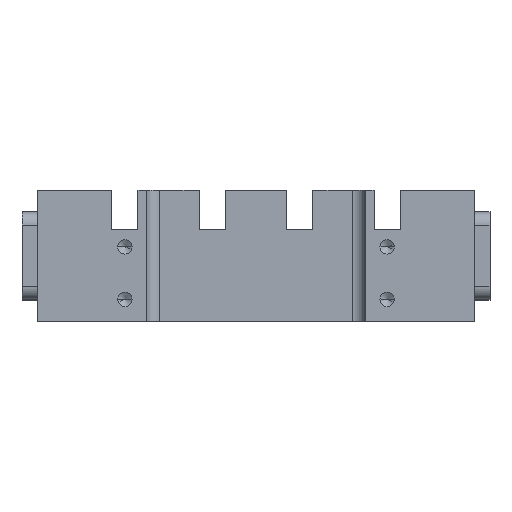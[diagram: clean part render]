
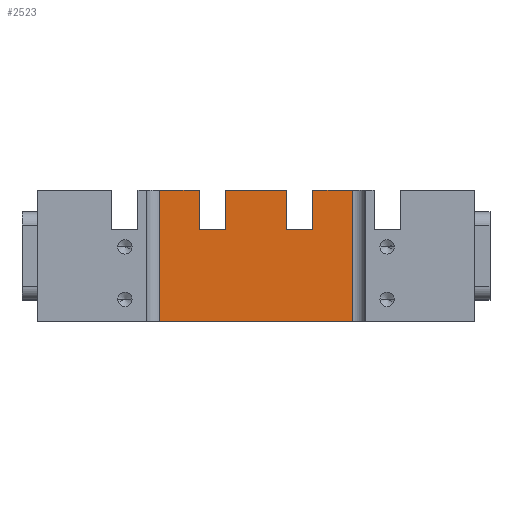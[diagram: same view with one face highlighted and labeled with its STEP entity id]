
A CAD part, top view. The second image highlights one B-rep face of the part: STEP entity #2523.
In plain terms, the highlighted planar face has unit normal (0, 0, 1).
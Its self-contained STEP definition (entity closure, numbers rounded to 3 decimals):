
#12 = DIRECTION ( 'NONE',  ( 0., 1., 0. ) ) ;
#122 = VERTEX_POINT ( 'NONE', #1188 ) ;
#127 = ORIENTED_EDGE ( 'NONE', *, *, #4414, .T. ) ;
#347 = CARTESIAN_POINT ( 'NONE',  ( 22., 30., 38. ) ) ;
#421 = ORIENTED_EDGE ( 'NONE', *, *, #6251, .F. ) ;
#474 = VECTOR ( 'NONE', #6776, 1000. ) ;
#662 = VECTOR ( 'NONE', #4734, 1000. ) ;
#690 = VECTOR ( 'NONE', #5185, 1000. ) ;
#728 = CARTESIAN_POINT ( 'NONE',  ( 22., 30., 38. ) ) ;
#803 = DIRECTION ( 'NONE',  ( 0., 1., 0. ) ) ;
#966 = CARTESIAN_POINT ( 'NONE',  ( 22., 30., 38. ) ) ;
#1063 = CARTESIAN_POINT ( 'NONE',  ( -13., 21., 38. ) ) ;
#1067 = DIRECTION ( 'NONE',  ( 0., 0., -1. ) ) ;
#1188 = CARTESIAN_POINT ( 'NONE',  ( 13., 21., 38. ) ) ;
#1225 = CARTESIAN_POINT ( 'NONE',  ( 13., 21., 38. ) ) ;
#1230 = CARTESIAN_POINT ( 'NONE',  ( 22., -20., 38. ) ) ;
#1294 = DIRECTION ( 'NONE',  ( -1., 0., 0. ) ) ;
#1342 = CARTESIAN_POINT ( 'NONE',  ( 20., 21., 38. ) ) ;
#1398 = VERTEX_POINT ( 'NONE', #1419 ) ;
#1405 = LINE ( 'NONE', #2511, #4658 ) ;
#1419 = CARTESIAN_POINT ( 'NONE',  ( -13., 30., 38. ) ) ;
#1479 = ORIENTED_EDGE ( 'NONE', *, *, #6575, .F. ) ;
#1533 = VECTOR ( 'NONE', #5529, 1000. ) ;
#1589 = EDGE_CURVE ( 'NONE', #3789, #3367, #3572, .T. ) ;
#1592 = AXIS2_PLACEMENT_3D ( 'NONE', #1230, #1067, #2830 ) ;
#1605 = CARTESIAN_POINT ( 'NONE',  ( 7., 21., 38. ) ) ;
#1658 = CARTESIAN_POINT ( 'NONE',  ( 7., 30., 38. ) ) ;
#1668 = LINE ( 'NONE', #1063, #662 ) ;
#1875 = LINE ( 'NONE', #5511, #3603 ) ;
#1986 = CARTESIAN_POINT ( 'NONE',  ( 13., 30., 38. ) ) ;
#1998 = LINE ( 'NONE', #6640, #474 ) ;
#2106 = EDGE_CURVE ( 'NONE', #1398, #4566, #1668, .T. ) ;
#2126 = ORIENTED_EDGE ( 'NONE', *, *, #4906, .T. ) ;
#2160 = ORIENTED_EDGE ( 'NONE', *, *, #6696, .F. ) ;
#2489 = ORIENTED_EDGE ( 'NONE', *, *, #1589, .F. ) ;
#2490 = VECTOR ( 'NONE', #12, 1000. ) ;
#2511 = CARTESIAN_POINT ( 'NONE',  ( -22., -20., 38. ) ) ;
#2523 = ADVANCED_FACE ( 'NONE', ( #6768 ), #3856, .F. ) ;
#2635 = EDGE_CURVE ( 'NONE', #5316, #4102, #3420, .T. ) ;
#2646 = EDGE_CURVE ( 'NONE', #6099, #5965, #5522, .T. ) ;
#2651 = CARTESIAN_POINT ( 'NONE',  ( 22., 0., 38. ) ) ;
#2830 = DIRECTION ( 'NONE',  ( -1., 0., 0. ) ) ;
#2839 = ORIENTED_EDGE ( 'NONE', *, *, #2646, .T. ) ;
#2841 = CARTESIAN_POINT ( 'NONE',  ( -7., 21., 38. ) ) ;
#3001 = VERTEX_POINT ( 'NONE', #1605 ) ;
#3042 = CARTESIAN_POINT ( 'NONE',  ( -22., 0., 38. ) ) ;
#3048 = CARTESIAN_POINT ( 'NONE',  ( -7., 30., 38. ) ) ;
#3183 = ORIENTED_EDGE ( 'NONE', *, *, #3564, .T. ) ;
#3336 = VECTOR ( 'NONE', #6680, 1000. ) ;
#3367 = VERTEX_POINT ( 'NONE', #3042 ) ;
#3420 = LINE ( 'NONE', #5608, #3336 ) ;
#3505 = DIRECTION ( 'NONE',  ( 0., 1., 0. ) ) ;
#3564 = EDGE_CURVE ( 'NONE', #5514, #4566, #6028, .T. ) ;
#3572 = LINE ( 'NONE', #5126, #4730 ) ;
#3603 = VECTOR ( 'NONE', #4487, 1000. ) ;
#3779 = LINE ( 'NONE', #5377, #2490 ) ;
#3789 = VERTEX_POINT ( 'NONE', #2651 ) ;
#3856 = PLANE ( 'NONE',  #1592 ) ;
#3951 = ORIENTED_EDGE ( 'NONE', *, *, #2635, .T. ) ;
#4102 = VERTEX_POINT ( 'NONE', #1986 ) ;
#4414 = EDGE_CURVE ( 'NONE', #1398, #6716, #5961, .T. ) ;
#4487 = DIRECTION ( 'NONE',  ( 0., 1., 0. ) ) ;
#4566 = VERTEX_POINT ( 'NONE', #4601 ) ;
#4578 = CARTESIAN_POINT ( 'NONE',  ( 7., 21., 38. ) ) ;
#4601 = CARTESIAN_POINT ( 'NONE',  ( -13., 21., 38. ) ) ;
#4658 = VECTOR ( 'NONE', #3505, 1000. ) ;
#4692 = EDGE_CURVE ( 'NONE', #3789, #5316, #3779, .T. ) ;
#4730 = VECTOR ( 'NONE', #5783, 1000. ) ;
#4734 = DIRECTION ( 'NONE',  ( 0., -1., 0. ) ) ;
#4906 = EDGE_CURVE ( 'NONE', #122, #3001, #1998, .T. ) ;
#5078 = DIRECTION ( 'NONE',  ( -1., 0., 0. ) ) ;
#5126 = CARTESIAN_POINT ( 'NONE',  ( 0., 0., 38. ) ) ;
#5185 = DIRECTION ( 'NONE',  ( 0., -1., 0. ) ) ;
#5208 = EDGE_LOOP ( 'NONE', ( #6572, #3951, #5390, #2126, #2160, #2839, #1479, #3183, #6753, #127, #421, #2489 ) ) ;
#5227 = VECTOR ( 'NONE', #803, 1000. ) ;
#5316 = VERTEX_POINT ( 'NONE', #966 ) ;
#5377 = CARTESIAN_POINT ( 'NONE',  ( 22., -20., 38. ) ) ;
#5390 = ORIENTED_EDGE ( 'NONE', *, *, #5842, .F. ) ;
#5511 = CARTESIAN_POINT ( 'NONE',  ( -7., 21., 38. ) ) ;
#5514 = VERTEX_POINT ( 'NONE', #2841 ) ;
#5522 = LINE ( 'NONE', #347, #5846 ) ;
#5529 = DIRECTION ( 'NONE',  ( -1., 0., 0. ) ) ;
#5608 = CARTESIAN_POINT ( 'NONE',  ( 22., 30., 38. ) ) ;
#5746 = CARTESIAN_POINT ( 'NONE',  ( -22., 30., 38. ) ) ;
#5779 = LINE ( 'NONE', #4578, #690 ) ;
#5783 = DIRECTION ( 'NONE',  ( -1., 0., 0. ) ) ;
#5842 = EDGE_CURVE ( 'NONE', #122, #4102, #6070, .T. ) ;
#5846 = VECTOR ( 'NONE', #1294, 1000. ) ;
#5851 = VECTOR ( 'NONE', #5078, 1000. ) ;
#5961 = LINE ( 'NONE', #728, #5851 ) ;
#5965 = VERTEX_POINT ( 'NONE', #3048 ) ;
#6028 = LINE ( 'NONE', #1342, #1533 ) ;
#6070 = LINE ( 'NONE', #1225, #5227 ) ;
#6099 = VERTEX_POINT ( 'NONE', #1658 ) ;
#6251 = EDGE_CURVE ( 'NONE', #3367, #6716, #1405, .T. ) ;
#6572 = ORIENTED_EDGE ( 'NONE', *, *, #4692, .T. ) ;
#6575 = EDGE_CURVE ( 'NONE', #5514, #5965, #1875, .T. ) ;
#6640 = CARTESIAN_POINT ( 'NONE',  ( 40., 21., 38. ) ) ;
#6680 = DIRECTION ( 'NONE',  ( -1., 0., 0. ) ) ;
#6696 = EDGE_CURVE ( 'NONE', #6099, #3001, #5779, .T. ) ;
#6716 = VERTEX_POINT ( 'NONE', #5746 ) ;
#6753 = ORIENTED_EDGE ( 'NONE', *, *, #2106, .F. ) ;
#6768 = FACE_OUTER_BOUND ( 'NONE', #5208, .T. ) ;
#6776 = DIRECTION ( 'NONE',  ( -1., 0., 0. ) ) ;
